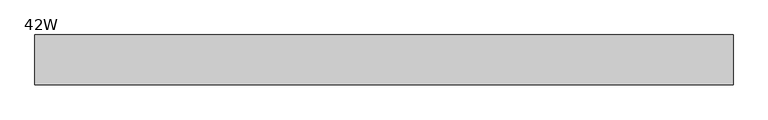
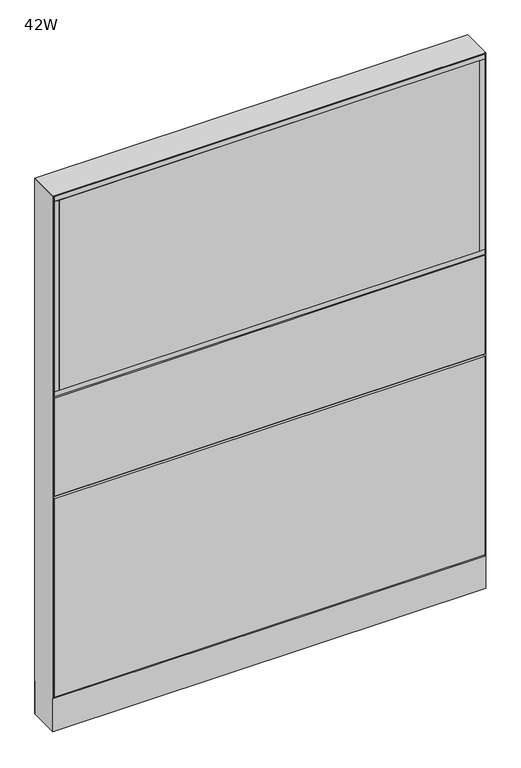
"""IFC4 building model written with IfcOpenShell, lengths in millimetres: furniture geometry, Steelcase - Montage - Frame - 55H - Enhanced Monolithic - Base Cavity : 42W."""

from ifc_helpers import new_model, si_unit, point, frame, frame_2d, origin, origin_with_axes, place, context, project, spatial, polyline, circle_curve, trimmed, segment, composite_curve, outline, extrude, faceted_brep, source, transform, mapped, element, save


def furniture_42w_0747c9ac(model_context):
    return source(origin(), model_context, "Body", "SolidModel", [
        extrude(outline(polyline([(15.875, 38.1000015), (1050.925, 38.1000015), (1050.925, 31.7500017), (15.875, 31.7500017), (15.875, 38.1000015)])), frame((0.0, 0.0, 887.4125), z_axis=(0.0, 0.0, 1.0), x_axis=(1.0, 0.0, 0.0)), (0.0, 0.0, 1.0), 495.3),
        extrude(outline(polyline([(15.875, -31.7499985), (1050.925, -31.7499985), (1050.925, -38.1000015), (15.875, -38.1000015), (15.875, -31.7499985)])), frame((0.0, 0.0, 887.4125), z_axis=(0.0, 0.0, 1.0), x_axis=(1.0, 0.0, 0.0)), (0.0, 0.0, 1.0), 495.3),
        extrude(outline(polyline([(3.175, -38.1000015), (3.175, 38.1000015), (15.875, 38.1000015), (15.875, -38.1000015), (3.175, -38.1000015)])), frame((0.0, 0.0, 887.4125), z_axis=(0.0, 0.0, 1.0), x_axis=(1.0, 0.0, 0.0)), (0.0, 0.0, 1.0), 495.3),
        extrude(outline(polyline([(1050.925, -38.1000015), (1050.925, 38.1000015), (1063.625, 38.1000015), (1063.625, -38.1000015), (1050.925, -38.1000015)])), frame((0.0, 0.0, 887.4125), z_axis=(0.0, 0.0, 1.0), x_axis=(1.0, 0.0, 0.0)), (0.0, 0.0, 1.0), 495.3),
        extrude(outline(polyline([(3.175, -38.1000015), (3.175, 38.1000015), (1063.625, 38.1000015), (1063.625, -38.1000015), (3.175, -38.1000015)])), frame((0.0, 0.0, 874.7125), z_axis=(0.0, 0.0, 1.0), x_axis=(1.0, 0.0, 0.0)), (0.0, 0.0, 1.0), 12.7),
        extrude(outline(polyline([(3.175, -38.1000015), (3.175, 38.1000015), (1063.625, 38.1000015), (1063.625, -38.1000015), (3.175, -38.1000015)])), frame((0.0, 0.0, 1382.7125), z_axis=(0.0, 0.0, 1.0), x_axis=(1.0, 0.0, 0.0)), (0.0, 0.0, 1.0), 12.7),
        extrude(outline(polyline([(1063.625, 31.7500194), (3.175, 31.7500194), (3.175, 38.1000194), (1063.625, 38.1000194), (1063.625, 31.7500194)])), frame((0.0, 0.0, 615.95), z_axis=(0.0, 0.0, 1.0), x_axis=(1.0, 0.0, 0.0)), (0.0, 0.0, 1.0), 255.5875),
        extrude(outline(polyline([(1063.625, 31.7500194), (3.175, 31.7500194), (3.175, 38.1000194), (1063.625, 38.1000194), (1063.625, 31.7500194)])), frame((0.0, 0.0, 92.075), z_axis=(0.0, 0.0, 1.0), x_axis=(1.0, 0.0, 0.0)), (0.0, 0.0, 1.0), 517.525),
        extrude(outline(polyline([(1050.925, 38.1000015), (1050.925, 31.7500017), (15.875, 31.7500017), (15.875, 38.1000015), (1050.925, 38.1000015)])), frame((0.0, 0.0, 887.4125), z_axis=(0.0, 0.0, 1.0), x_axis=(1.0, 0.0, 0.0)), (0.0, 0.0, 1.0), 495.3),
        extrude(outline(polyline([(1050.925, -31.7499985), (1050.925, -38.1000015), (15.875, -38.1000015), (15.875, -31.7499985), (1050.925, -31.7499985)])), frame((0.0, 0.0, 887.4125), z_axis=(0.0, 0.0, 1.0), x_axis=(1.0, 0.0, 0.0)), (0.0, 0.0, 1.0), 495.3),
        extrude(outline(polyline([(1063.625, -38.1000015), (1050.925, -38.1000015), (1050.925, 38.1000015), (1063.625, 38.1000015), (1063.625, -38.1000015)])), frame((0.0, 0.0, 887.4125), z_axis=(0.0, 0.0, 1.0), x_axis=(1.0, 0.0, 0.0)), (0.0, 0.0, 1.0), 495.3),
        extrude(outline(polyline([(15.875, -38.1000015), (3.175, -38.1000015), (3.175, 38.1000015), (15.875, 38.1000015), (15.875, -38.1000015)])), frame((0.0, 0.0, 887.4125), z_axis=(0.0, 0.0, 1.0), x_axis=(1.0, 0.0, 0.0)), (0.0, 0.0, 1.0), 495.3),
        extrude(outline(polyline([(1063.625, -38.1000015), (3.175, -38.1000015), (3.175, 38.1000015), (1063.625, 38.1000015), (1063.625, -38.1000015)])), frame((0.0, 0.0, 874.7125), z_axis=(0.0, 0.0, 1.0), x_axis=(1.0, 0.0, 0.0)), (0.0, 0.0, 1.0), 12.7),
        extrude(outline(polyline([(1063.625, -38.1000015), (3.175, -38.1000015), (3.175, 38.1000015), (1063.625, 38.1000015), (1063.625, -38.1000015)])), frame((0.0, 0.0, 1382.7125), z_axis=(0.0, 0.0, 1.0), x_axis=(1.0, 0.0, 0.0)), (0.0, 0.0, 1.0), 12.7),
        extrude(outline(polyline([(3.175, 31.7500194), (3.175, 38.1000194), (1063.625, 38.1000194), (1063.625, 31.7500194), (3.175, 31.7500194)])), frame((0.0, 0.0, 615.95), z_axis=(0.0, 0.0, 1.0), x_axis=(1.0, 0.0, 0.0)), (0.0, 0.0, 1.0), 255.5875),
        extrude(outline(polyline([(3.175, 31.7500194), (3.175, 38.1000194), (1063.625, 38.1000194), (1063.625, 31.7500194), (3.175, 31.7500194)])), frame((0.0, 0.0, 92.075), z_axis=(0.0, 0.0, 1.0), x_axis=(1.0, 0.0, 0.0)), (0.0, 0.0, 1.0), 517.525),
        extrude(outline(polyline([(1050.925, -38.1000015), (15.875, -38.1000015), (15.875, -31.7500017), (1050.925, -31.7500017), (1050.925, -38.1000015)])), frame((0.0, 0.0, 887.4125), z_axis=(0.0, 0.0, 1.0), x_axis=(1.0, 0.0, 0.0)), (0.0, 0.0, 1.0), 495.3),
        extrude(outline(polyline([(1050.925, 31.7499985), (15.875, 31.7499985), (15.875, 38.1000015), (1050.925, 38.1000015), (1050.925, 31.7499985)])), frame((0.0, 0.0, 887.4125), z_axis=(0.0, 0.0, 1.0), x_axis=(1.0, 0.0, 0.0)), (0.0, 0.0, 1.0), 495.3),
        extrude(outline(polyline([(1063.625, 38.1000015), (1063.625, -38.1000015), (1050.925, -38.1000015), (1050.925, 38.1000015), (1063.625, 38.1000015)])), frame((0.0, 0.0, 887.4125), z_axis=(0.0, 0.0, 1.0), x_axis=(1.0, 0.0, 0.0)), (0.0, 0.0, 1.0), 495.3),
        extrude(outline(polyline([(15.875, 38.1000015), (15.875, -38.1000015), (3.175, -38.1000015), (3.175, 38.1000015), (15.875, 38.1000015)])), frame((0.0, 0.0, 887.4125), z_axis=(0.0, 0.0, 1.0), x_axis=(1.0, 0.0, 0.0)), (0.0, 0.0, 1.0), 495.3),
        extrude(outline(polyline([(1063.625, 38.1000015), (1063.625, -38.1000015), (3.175, -38.1000015), (3.175, 38.1000015), (1063.625, 38.1000015)])), frame((0.0, 0.0, 874.7125), z_axis=(0.0, 0.0, 1.0), x_axis=(1.0, 0.0, 0.0)), (0.0, 0.0, 1.0), 12.7),
        extrude(outline(polyline([(1063.625, 38.1000015), (1063.625, -38.1000015), (3.175, -38.1000015), (3.175, 38.1000015), (1063.625, 38.1000015)])), frame((0.0, 0.0, 1382.7125), z_axis=(0.0, 0.0, 1.0), x_axis=(1.0, 0.0, 0.0)), (0.0, 0.0, 1.0), 12.7),
        extrude(outline(polyline([(3.175, -31.7500194), (1063.625, -31.7500194), (1063.625, -38.1000194), (3.175, -38.1000194), (3.175, -31.7500194)])), frame((0.0, 0.0, 615.95), z_axis=(0.0, 0.0, 1.0), x_axis=(1.0, 0.0, 0.0)), (0.0, 0.0, 1.0), 255.5875),
        extrude(outline(polyline([(3.175, -31.7500194), (1063.625, -31.7500194), (1063.625, -38.1000194), (3.175, -38.1000194), (3.175, -31.7500194)])), frame((0.0, 0.0, 92.075), z_axis=(0.0, 0.0, 1.0), x_axis=(1.0, 0.0, 0.0)), (0.0, 0.0, 1.0), 517.525),
        extrude(outline(polyline([(6.350003, -31.7499985), (1060.449997, -31.7499985), (1066.8, -38.1000015), (0.0, -38.1000015), (6.350003, -31.7499985)])), frame((0.0, 0.0, 4.064), z_axis=(0.0, 0.0, 1.0), x_axis=(1.0, 0.0, 0.0)), (0.0, 0.0, 1.0), 84.835997),
        extrude(outline(polyline([(6.3500002, 31.7500017), (0.0, 38.1000015), (1066.8, 38.1000015), (1060.4500002, 31.7500017), (6.3500002, 31.7500017)])), frame((0.0, 0.0, 4.064), z_axis=(0.0, 0.0, 1.0), x_axis=(1.0, 0.0, 0.0)), (0.0, 0.0, 1.0), 84.835997),
        faceted_brep([(1066.8, -38.1000015, 1398.5875), (0.0, -38.1000015, 1398.5875), (6.3500484, -31.749953, 1392.2374516), (1060.4499516, -31.749953, 1392.2374516), (6.3500484, 31.749953, 1392.2374516), (1060.4499516, 31.749953, 1392.2374516), (0.0, 38.1000015, 1398.5875), (1066.8, 38.1000015, 1398.5875)], [[[0, 1, 2, 3]], [[3, 2, 4, 5]], [[6, 7, 5, 4]], [[1, 0, 7, 6]], [[2, 1, 6, 4]], [[0, 3, 5, 7]]]),
        extrude(outline(composite_curve([segment(trimmed(circle_curve(frame_2d((44.45, 0.0)), 15.24), [point((29.21, 0.0))], [point((59.69, 0.0))], False, "CARTESIAN"), True, "CONTINUOUS"), segment(trimmed(circle_curve(frame_2d((44.45, 0.0)), 15.24), [point((59.69, 0.0))], [point((29.21, 0.0))], False, "CARTESIAN"), True, "CONTINUOUS")], self_intersect=False)), origin_with_axes(), (0.0, 0.0, 1.0), 4.064),
        extrude(outline(composite_curve([segment(trimmed(circle_curve(frame_2d((1022.35, 0.0)), 15.24), [point((1007.11, 0.0))], [point((1037.59, 0.0))], False, "CARTESIAN"), True, "CONTINUOUS"), segment(trimmed(circle_curve(frame_2d((1022.35, 0.0)), 15.24), [point((1037.59, 0.0))], [point((1007.11, 0.0))], False, "CARTESIAN"), True, "CONTINUOUS")], self_intersect=False)), origin_with_axes(), (0.0, 0.0, 1.0), 4.064),
        faceted_brep([(1066.8, -38.1000106, 4.064), (1066.8, 38.1000015, 4.064), (1066.8, 38.1000015, 1398.5875), (1066.8, -38.1000106, 1398.5874637), (0.0, 38.1000015, 4.064), (0.0, -38.1000015, 4.064), (0.0, -38.1000015, 1398.5875), (0.0, 38.1000015, 1398.5875), (1060.4499879, 31.7500017, 606.425), (6.35, 31.7500017, 606.425), (6.3499998, 31.7500017, 619.125), (1060.4499879, 31.7500017, 619.125), (6.35, -31.7499985, 619.125), (1060.4499879, -31.7499985, 619.125), (6.350003, -31.7499985, 606.425), (1060.4499879, -31.7499985, 606.425), (6.35, 31.7500015, 4.064), (6.35, -31.7500015, 4.064), (1060.4499879, 31.7499894, 4.064), (1060.4499879, -31.7499985, 4.064), (6.35, 31.7500015, 1392.2375), (6.35, -31.7500015, 1392.2375), (1060.4499879, -31.7499985, 1392.2374516), (1060.4499879, 31.7499895, 1392.2374516)], [[[0, 1, 2, 3]], [[4, 5, 6, 7]], [[8, 9, 10, 11]], [[11, 10, 12, 13]], [[13, 12, 14, 15]], [[9, 8, 15, 14]], [[16, 17, 5, 4]], [[18, 1, 0, 19]], [[16, 4, 7, 20, 10, 9]], [[5, 17, 14, 12, 21, 6]], [[17, 16, 9, 14]], [[12, 10, 20, 21]], [[18, 19, 15, 8]], [[11, 13, 22, 23]], [[19, 0, 3, 22, 13, 15]], [[1, 18, 8, 11, 23, 2]], [[7, 6, 21, 20]], [[3, 2, 23, 22]]]),
    ])


if __name__ == "__main__":
    model = new_model("IFC4")
    model_context = context("Model", 3, world=origin())
    ifc_project = project(units=[si_unit("LENGTHUNIT", "METRE", prefix="MILLI")], contexts=[model_context])
    site = spatial("IfcSite", under=ifc_project)
    building = spatial("IfcBuilding", under=site)
    placement = place(None, origin())
    furniture_42w_shape = furniture_42w_0747c9ac(model_context)
    element("IfcFurniture", 1, ObjectType="Steelcase - Montage - Frame - 55H - Enhanced Monolithic - Base Cavity : 42W", at=placement, inside=building, context=model_context, shape_type="MappedRepresentation", body=[
        mapped(furniture_42w_shape, transform((0.0, 0.0, 0.0), x_axis=(1.0, 0.0, 0.0), y_axis=(0.0, 1.0, 0.0), z_axis=(0.0, 0.0, 1.0))),
    ])
    save(model, "model.ifc")
